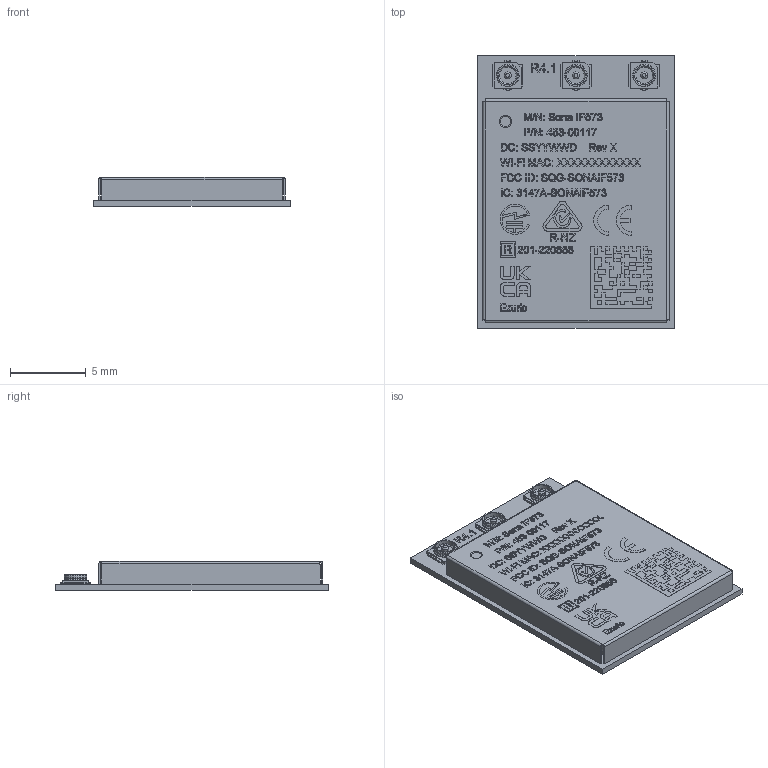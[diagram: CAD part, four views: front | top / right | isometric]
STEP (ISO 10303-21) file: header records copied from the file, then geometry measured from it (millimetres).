
FILE_DESCRIPTION (( 'STEP AP214' ), '1' );
FILE_NAME ('453-00117.STEP', '2026-05-25T09:57:04', ( '' ), ( '' ), 'SwSTEP 2.0', 'SolidWorks 2025', '' );
FILE_SCHEMA (( 'AUTOMOTIVE_DESIGN' ));
Length unit declared in the file: millimetre
Products named in the file (4): 750-03373-11108201_940-00230, MIMO, SC; 110-00817_453-00117; 940-00230_453-00117_laser; 453-00117
Assembly tree (3 placements, depth 3):
  453-00117
    940-00230_453-00117_laser
      750-03373-11108201_940-00230, MIMO, SC
      110-00817_453-00117
Bounding box: 13 x 18 x 1.92 mm (x, y, z)
Volume: 25 mm3; surface area: 1460.9 mm2
Topology: 1 solids, 418 shells, 5977 faces, 14373 edges, 9313 vertices
Faces by surface type: plane 4458, bspline 706, cylinder 621, sphere 160, cone 30, torus 2
Entity records: 271116 total; most frequent: CARTESIAN_POINT 69700, ORIENTED_EDGE 28273, DIRECTION 24027, EDGE_CURVE 14213, LINE 11097, VECTOR 11097, VERTEX_POINT 9313, AXIS2_PLACEMENT_3D 6465
